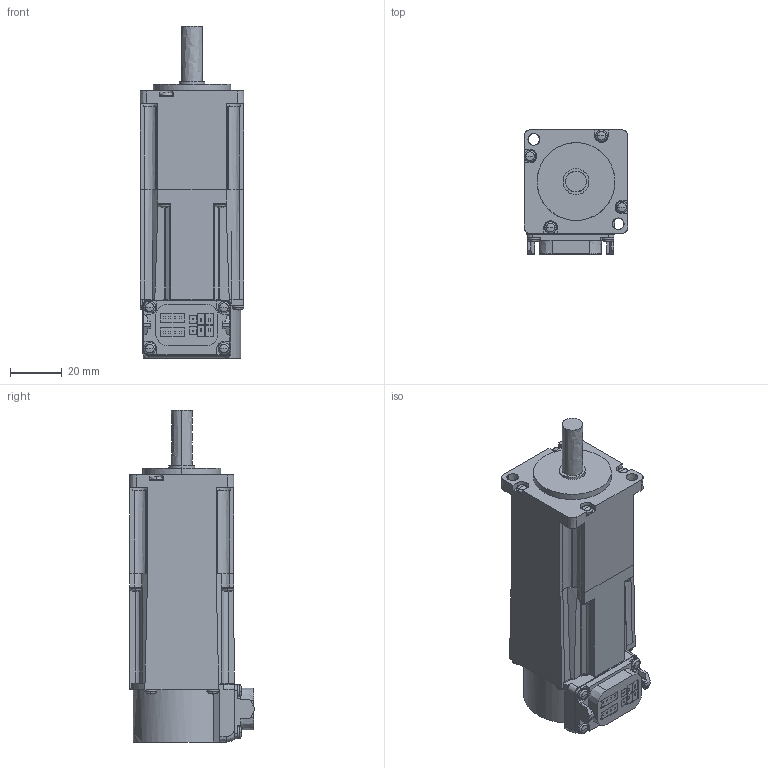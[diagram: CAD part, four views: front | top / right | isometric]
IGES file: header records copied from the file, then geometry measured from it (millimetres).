
Start section:  PTC IGES file: hk-kt13wb_-_asm.igs
Global section: file name: hk-kt13wb_-_asm.igs; native system: Creo Parametric by PTC Inc.; preprocessor: 2016380; author: XE90682; organization: Unknown; date: 20190116.094158; units: millimetre
Bounding box: 40 x 47.85 x 128 mm (x, y, z)
Volume: 146838.8 mm3; surface area: 21275.1 mm2
Topology: 1 solids, 1 shells, 464 faces, 1216 edges, 757 vertices
Faces by surface type: bspline 464
